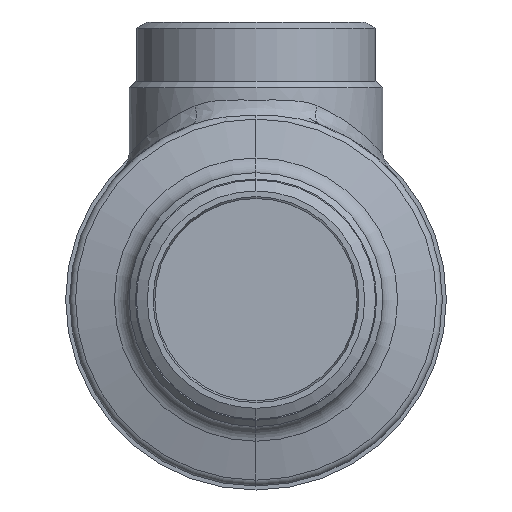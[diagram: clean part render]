
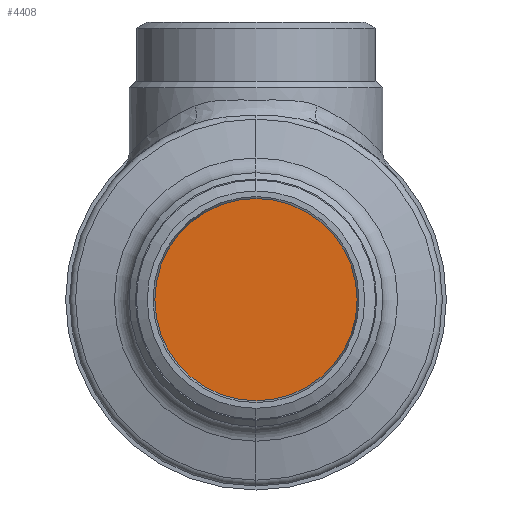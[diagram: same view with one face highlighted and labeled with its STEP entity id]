
A CAD part, front view. The second image highlights one B-rep face of the part: STEP entity #4408.
In plain terms, the highlighted planar face has unit normal (0, -1, 0).
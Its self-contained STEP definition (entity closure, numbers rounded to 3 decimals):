
#3537 = ORIENTED_EDGE ( 'NONE', *, *, #4742, .T. ) ;
#3580 = EDGE_CURVE ( 'NONE', #5429, #4616, #5176, .T. ) ;
#3740 = ORIENTED_EDGE ( 'NONE', *, *, #3580, .T. ) ;
#4221 = EDGE_LOOP ( 'NONE', ( #3740, #3537 ) ) ;
#4408 = ADVANCED_FACE ( 'NONE', ( #6111 ), #6112, .T. ) ;
#4616 = VERTEX_POINT ( 'NONE', #8027 ) ;
#4742 = EDGE_CURVE ( 'NONE', #4616, #5429, #8164, .T. ) ;
#5176 = CIRCLE ( 'NONE', #5177, 25.5 ) ;
#5177 = AXIS2_PLACEMENT_3D ( 'NONE', #5178, #5179, #5180 ) ;
#5178 = CARTESIAN_POINT ( 'NONE',  ( 0., -83., 0. ) ) ;
#5179 = DIRECTION ( 'NONE',  ( 0., -1., 0. ) ) ;
#5180 = DIRECTION ( 'NONE',  ( 0., 0., -1. ) ) ;
#5429 = VERTEX_POINT ( 'NONE', #8734 ) ;
#6111 = FACE_OUTER_BOUND ( 'NONE', #4221, .T. ) ;
#6112 = PLANE ( 'NONE',  #6113 ) ;
#6113 = AXIS2_PLACEMENT_3D ( 'NONE', #6114, #6115, #6116 ) ;
#6114 = CARTESIAN_POINT ( 'NONE',  ( 0., -83., 0. ) ) ;
#6115 = DIRECTION ( 'NONE',  ( 0., -1., 0. ) ) ;
#6116 = DIRECTION ( 'NONE',  ( 0., 0., -1. ) ) ;
#8027 = CARTESIAN_POINT ( 'NONE',  ( 0., -83., 25.5 ) ) ;
#8164 = CIRCLE ( 'NONE', #8165, 25.5 ) ;
#8165 = AXIS2_PLACEMENT_3D ( 'NONE', #8166, #8167, #8168 ) ;
#8166 = CARTESIAN_POINT ( 'NONE',  ( 0., -83., 0. ) ) ;
#8167 = DIRECTION ( 'NONE',  ( 0., -1., 0. ) ) ;
#8168 = DIRECTION ( 'NONE',  ( 0., 0., -1. ) ) ;
#8734 = CARTESIAN_POINT ( 'NONE',  ( 0., -83., -25.5 ) ) ;
